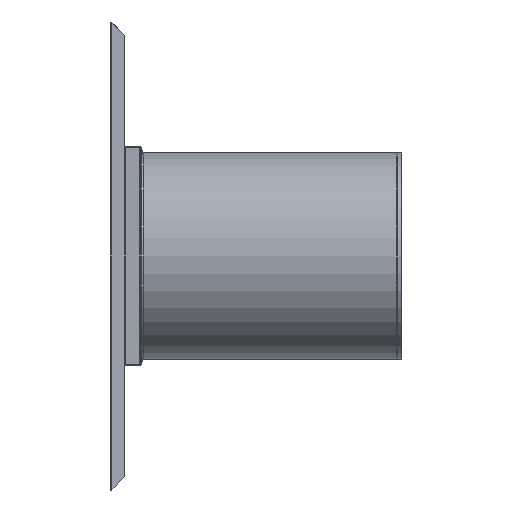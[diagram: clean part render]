
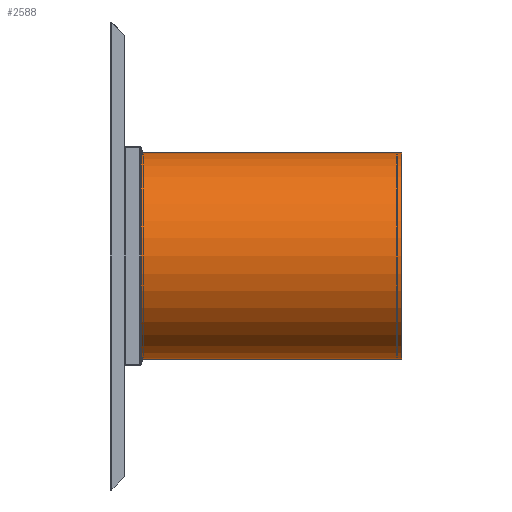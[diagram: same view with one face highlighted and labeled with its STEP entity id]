
A CAD part, left-side view. The second image highlights one B-rep face of the part: STEP entity #2588.
In plain terms, the highlighted cylindrical face has radius 265 mm (diameter 530 mm), a partial arc.
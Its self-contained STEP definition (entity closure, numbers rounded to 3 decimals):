
#825 = DIRECTION ( 'NONE',  ( 0., -1., 0. ) ) ;
#1420 = AXIS2_PLACEMENT_3D ( 'NONE', #8496, #13769, #10835 ) ;
#2588 = ADVANCED_FACE ( 'NONE', ( #13855 ), #16179, .T. ) ;
#3565 = CIRCLE ( 'NONE', #13201, 265. ) ;
#4251 = CIRCLE ( 'NONE', #11101, 265. ) ;
#4587 = EDGE_CURVE ( 'NONE', #11604, #10386, #13919, .T. ) ;
#4635 = VECTOR ( 'NONE', #825, 1000. ) ;
#4746 = ORIENTED_EDGE ( 'NONE', *, *, #16904, .F. ) ;
#5611 = ORIENTED_EDGE ( 'NONE', *, *, #5679, .T. ) ;
#5679 = EDGE_CURVE ( 'NONE', #10386, #12654, #3565, .T. ) ;
#6490 = CARTESIAN_POINT ( 'NONE',  ( 0., 670., 0. ) ) ;
#7539 = CARTESIAN_POINT ( 'NONE',  ( 0., 0., 0. ) ) ;
#8029 = EDGE_CURVE ( 'NONE', #13975, #12654, #12843, .T. ) ;
#8393 = EDGE_LOOP ( 'NONE', ( #9205, #4746, #12505, #5611 ) ) ;
#8496 = CARTESIAN_POINT ( 'NONE',  ( 0., 670., 0. ) ) ;
#8911 = DIRECTION ( 'NONE',  ( 0., 0., 1. ) ) ;
#8977 = DIRECTION ( 'NONE',  ( 0., 0., 1. ) ) ;
#9205 = ORIENTED_EDGE ( 'NONE', *, *, #8029, .F. ) ;
#10254 = CARTESIAN_POINT ( 'NONE',  ( 0., 670., 265. ) ) ;
#10386 = VERTEX_POINT ( 'NONE', #16578 ) ;
#10684 = CARTESIAN_POINT ( 'NONE',  ( 0., 0., 265. ) ) ;
#10835 = DIRECTION ( 'NONE',  ( 0., 0., -1. ) ) ;
#11101 = AXIS2_PLACEMENT_3D ( 'NONE', #6490, #13123, #8977 ) ;
#11604 = VERTEX_POINT ( 'NONE', #13267 ) ;
#12505 = ORIENTED_EDGE ( 'NONE', *, *, #4587, .T. ) ;
#12589 = DIRECTION ( 'NONE',  ( 0., -1., 0. ) ) ;
#12654 = VERTEX_POINT ( 'NONE', #10684 ) ;
#12843 = LINE ( 'NONE', #10254, #15071 ) ;
#13123 = DIRECTION ( 'NONE',  ( 0., 1., 0. ) ) ;
#13201 = AXIS2_PLACEMENT_3D ( 'NONE', #7539, #15386, #8911 ) ;
#13267 = CARTESIAN_POINT ( 'NONE',  ( 0., 670., -265. ) ) ;
#13769 = DIRECTION ( 'NONE',  ( 0., -1., 0. ) ) ;
#13855 = FACE_OUTER_BOUND ( 'NONE', #8393, .T. ) ;
#13919 = LINE ( 'NONE', #16750, #4635 ) ;
#13975 = VERTEX_POINT ( 'NONE', #15449 ) ;
#15071 = VECTOR ( 'NONE', #12589, 1000. ) ;
#15386 = DIRECTION ( 'NONE',  ( 0., 1., 0. ) ) ;
#15449 = CARTESIAN_POINT ( 'NONE',  ( 0., 670., 265. ) ) ;
#16179 = CYLINDRICAL_SURFACE ( 'NONE', #1420, 265. ) ;
#16578 = CARTESIAN_POINT ( 'NONE',  ( 0., 0., -265. ) ) ;
#16750 = CARTESIAN_POINT ( 'NONE',  ( 0., 670., -265. ) ) ;
#16904 = EDGE_CURVE ( 'NONE', #11604, #13975, #4251, .T. ) ;
